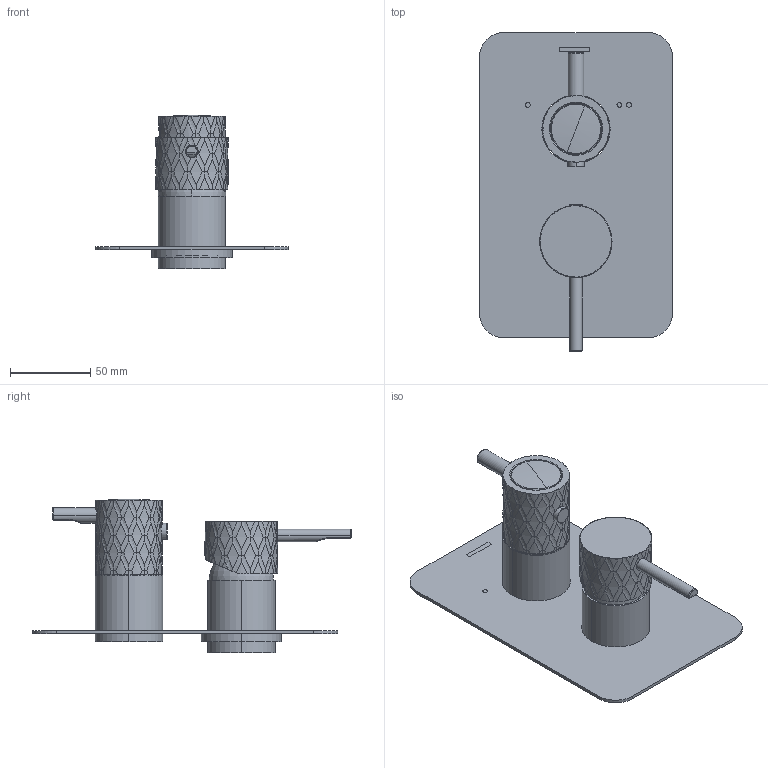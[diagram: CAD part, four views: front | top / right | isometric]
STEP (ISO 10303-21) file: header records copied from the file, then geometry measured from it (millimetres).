
FILE_DESCRIPTION (( 'STEP AP203' ), '1' );
FILE_NAME ('59DP07688.STEP', '2024-01-18T11:54:11', ( '' ), ( '' ), 'SwSTEP 2.0', 'SolidWorks 2021', '' );
FILE_SCHEMA (( 'CONFIG_CONTROL_DESIGN' ));
Length unit declared in the file: millimetre
Products named in the file (1): 59DP07688
Bounding box: 120 x 198.53 x 95.55 mm (x, y, z)
Volume: 102703.6 mm3; surface area: 107518.3 mm2
Topology: 12 solids, 12 shells, 773 faces, 2020 edges, 1257 vertices
Faces by surface type: cylinder 296, bspline 260, plane 115, cone 72, torus 22, sphere 8
Entity records: 51539 total; most frequent: CARTESIAN_POINT 35660, ORIENTED_EDGE 3958, DIRECTION 2199, EDGE_CURVE 1979, VERTEX_POINT 1257, B_SPLINE_CURVE_WITH_KNOTS 1151, AXIS2_PLACEMENT_3D 916, EDGE_LOOP 832
